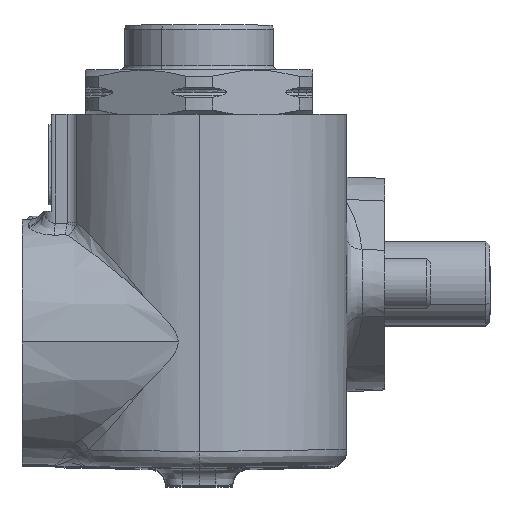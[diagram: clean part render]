
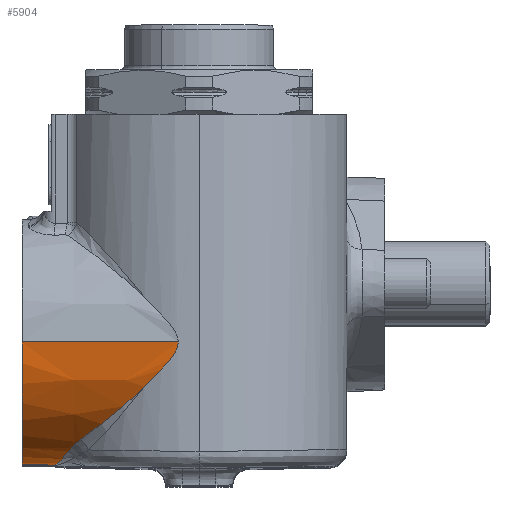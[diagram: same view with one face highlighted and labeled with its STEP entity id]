
A CAD part, top view. The second image highlights one B-rep face of the part: STEP entity #5904.
In plain terms, the highlighted conical face has half-angle 1 degrees and reference radius 14.5 mm.
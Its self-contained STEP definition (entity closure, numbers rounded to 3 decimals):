
#699 = CARTESIAN_POINT ( 'NONE',  ( -8.055, -18.576, 65.432 ) ) ;
#847 = CARTESIAN_POINT ( 'NONE',  ( -0.474, -12.326, 70.259 ) ) ;
#1020 = B_SPLINE_CURVE_WITH_KNOTS ( 'NONE', 3,
 ( #12527, #26080, #12668, #1405, #14603, #15177 ),
 .UNSPECIFIED., .F., .F.,
 ( 4, 2, 4 ),
 ( 0., 0.002, 0.003 ),
 .UNSPECIFIED. ) ;
#1257 = ORIENTED_EDGE ( 'NONE', *, *, #18440, .T. ) ;
#1405 = CARTESIAN_POINT ( 'NONE',  ( -8.672, -19.06, 64.76 ) ) ;
#1425 = FACE_OUTER_BOUND ( 'NONE', #27472, .T. ) ;
#2010 = CARTESIAN_POINT ( 'NONE',  ( -11.103, -21.568, 57.088 ) ) ;
#2461 = CARTESIAN_POINT ( 'NONE',  ( -9.704, -20.245, 62.651 ) ) ;
#2825 = AXIS2_PLACEMENT_3D ( 'NONE', #24018, #28433, #5876 ) ;
#2916 = CARTESIAN_POINT ( 'NONE',  ( -8.055, -18.576, 65.432 ) ) ;
#3056 = CARTESIAN_POINT ( 'NONE',  ( 2.228, -9.501, 71.09 ) ) ;
#3122 = DIRECTION ( 'NONE',  ( -1., 0.017, 0. ) ) ;
#3947 = CARTESIAN_POINT ( 'NONE',  ( 1.093, -10.752, 70.803 ) ) ;
#4099 = CARTESIAN_POINT ( 'NONE',  ( -0.474, -12.326, 70.259 ) ) ;
#4383 = DIRECTION ( 'NONE',  ( 1., 0., 0.017 ) ) ;
#5068 = LINE ( 'NONE', #14245, #12451 ) ;
#5876 = DIRECTION ( 'NONE',  ( 0., 0., 1. ) ) ;
#5904 = ADVANCED_FACE ( 'NONE', ( #1425 ), #18899, .T. ) ;
#6767 = EDGE_CURVE ( 'NONE', #18342, #11330, #7171, .T. ) ;
#7171 = B_SPLINE_CURVE_WITH_KNOTS ( 'NONE', 3,
 ( #8060, #28294, #21698, #19483, #17265, #14325, #23324, #3056, #21148, #29012, #3947, #29162, #10897, #4099 ),
 .UNSPECIFIED., .F., .F.,
 ( 4, 2, 2, 2, 2, 2, 4 ),
 ( 0.023, 0.024, 0.025, 0.026, 0.026, 0.028, 0.03 ),
 .UNSPECIFIED. ) ;
#7458 = VERTEX_POINT ( 'NONE', #11126 ) ;
#7792 = CARTESIAN_POINT ( 'NONE',  ( -7.469, -18.149, 66.002 ) ) ;
#8060 = CARTESIAN_POINT ( 'NONE',  ( 3.519, -7., 71.323 ) ) ;
#8260 = VERTEX_POINT ( 'NONE', #25598 ) ;
#8820 = CARTESIAN_POINT ( 'NONE',  ( -10.236, -20.861, 61.068 ) ) ;
#8924 = VERTEX_POINT ( 'NONE', #22013 ) ;
#8976 = ORIENTED_EDGE ( 'NONE', *, *, #17220, .F. ) ;
#9300 = CARTESIAN_POINT ( 'NONE',  ( -15., -7., 71. ) ) ;
#9322 = DIRECTION ( 'NONE',  ( 1., 0., 0. ) ) ;
#9407 = CARTESIAN_POINT ( 'NONE',  ( -10.396, -21.028, 60.517 ) ) ;
#10586 = LINE ( 'NONE', #20210, #22735 ) ;
#10897 = CARTESIAN_POINT ( 'NONE',  ( -0.08, -11.94, 70.415 ) ) ;
#11126 = CARTESIAN_POINT ( 'NONE',  ( -11.198, -21.566, 56.5 ) ) ;
#11168 = VERTEX_POINT ( 'NONE', #2916 ) ;
#11330 = VERTEX_POINT ( 'NONE', #14401 ) ;
#12093 = ORIENTED_EDGE ( 'NONE', *, *, #6767, .F. ) ;
#12121 = CARTESIAN_POINT ( 'NONE',  ( -3.048, -14.656, 69.076 ) ) ;
#12274 = CARTESIAN_POINT ( 'NONE',  ( -3.695, -15.195, 68.718 ) ) ;
#12451 = VECTOR ( 'NONE', #3122, 1000. ) ;
#12527 = CARTESIAN_POINT ( 'NONE',  ( -9.52, -19.989, 63.157 ) ) ;
#12668 = CARTESIAN_POINT ( 'NONE',  ( -9.159, -19.535, 64.002 ) ) ;
#14245 = CARTESIAN_POINT ( 'NONE',  ( -17., -21.465, 56.5 ) ) ;
#14325 = CARTESIAN_POINT ( 'NONE',  ( 2.76, -8.831, 71.198 ) ) ;
#14401 = CARTESIAN_POINT ( 'NONE',  ( -0.474, -12.326, 70.259 ) ) ;
#14603 = CARTESIAN_POINT ( 'NONE',  ( -8.383, -18.815, 65.113 ) ) ;
#14985 = ORIENTED_EDGE ( 'NONE', *, *, #17486, .T. ) ;
#15177 = CARTESIAN_POINT ( 'NONE',  ( -8.055, -18.576, 65.432 ) ) ;
#15266 = AXIS2_PLACEMENT_3D ( 'NONE', #27030, #9322, #18365 ) ;
#16688 = CARTESIAN_POINT ( 'NONE',  ( -5.619, -16.739, 67.483 ) ) ;
#16830 = CARTESIAN_POINT ( 'NONE',  ( -1.754, -13.532, 69.72 ) ) ;
#17220 = EDGE_CURVE ( 'NONE', #7458, #8924, #5068, .T. ) ;
#17265 = CARTESIAN_POINT ( 'NONE',  ( 3.08, -8.355, 71.255 ) ) ;
#17486 = EDGE_CURVE ( 'NONE', #7458, #8260, #23974, .T. ) ;
#18342 = VERTEX_POINT ( 'NONE', #18663 ) ;
#18365 = DIRECTION ( 'NONE',  ( 0., 0., -1. ) ) ;
#18440 = EDGE_CURVE ( 'NONE', #24115, #8924, #19539, .T. ) ;
#18663 = CARTESIAN_POINT ( 'NONE',  ( 3.519, -7., 71.323 ) ) ;
#18860 = EDGE_CURVE ( 'NONE', #11168, #11330, #19727, .T. ) ;
#18899 = CONICAL_SURFACE ( 'NONE', #2825, 14.5, 0.017 ) ;
#19180 = ORIENTED_EDGE ( 'NONE', *, *, #27086, .F. ) ;
#19204 = CARTESIAN_POINT ( 'NONE',  ( -6.863, -17.695, 66.523 ) ) ;
#19483 = CARTESIAN_POINT ( 'NONE',  ( 3.225, -8.108, 71.279 ) ) ;
#19539 = CIRCLE ( 'NONE', #15266, 14.5 ) ;
#19727 = B_SPLINE_CURVE_WITH_KNOTS ( 'NONE', 3,
 ( #699, #7792, #19204, #16688, #23332, #12274, #12121, #16830, #21154, #847 ),
 .UNSPECIFIED., .F., .F.,
 ( 4, 2, 2, 2, 4 ),
 ( 0., 0.003, 0.006, 0.008, 0.011 ),
 .UNSPECIFIED. ) ;
#20210 = CARTESIAN_POINT ( 'NONE',  ( -15., -7., 71. ) ) ;
#20241 = ORIENTED_EDGE ( 'NONE', *, *, #18860, .T. ) ;
#20245 = CARTESIAN_POINT ( 'NONE',  ( -10.798, -21.398, 58.826 ) ) ;
#20400 = CARTESIAN_POINT ( 'NONE',  ( -11.198, -21.566, 56.5 ) ) ;
#21148 = CARTESIAN_POINT ( 'NONE',  ( 2.043, -9.715, 71.048 ) ) ;
#21154 = CARTESIAN_POINT ( 'NONE',  ( -1.107, -12.947, 70.006 ) ) ;
#21698 = CARTESIAN_POINT ( 'NONE',  ( 3.448, -7.576, 71.313 ) ) ;
#22013 = CARTESIAN_POINT ( 'NONE',  ( -15., -21.5, 56.5 ) ) ;
#22728 = CARTESIAN_POINT ( 'NONE',  ( -11.01, -21.534, 57.672 ) ) ;
#22735 = VECTOR ( 'NONE', #4383, 1000. ) ;
#23324 = CARTESIAN_POINT ( 'NONE',  ( 2.586, -9.06, 71.165 ) ) ;
#23332 = CARTESIAN_POINT ( 'NONE',  ( -4.98, -16.236, 67.923 ) ) ;
#23974 = B_SPLINE_CURVE_WITH_KNOTS ( 'NONE', 3,
 ( #20400, #2010, #22728, #20245, #26666, #9407, #8820, #26964, #2461, #24619 ),
 .UNSPECIFIED., .F., .F.,
 ( 4, 2, 2, 2, 4 ),
 ( 0., 0.002, 0.004, 0.005, 0.007 ),
 .UNSPECIFIED. ) ;
#24018 = CARTESIAN_POINT ( 'NONE',  ( -15., -7., 56.5 ) ) ;
#24115 = VERTEX_POINT ( 'NONE', #9300 ) ;
#24619 = CARTESIAN_POINT ( 'NONE',  ( -9.52, -19.989, 63.157 ) ) ;
#25598 = CARTESIAN_POINT ( 'NONE',  ( -9.52, -19.989, 63.157 ) ) ;
#26080 = CARTESIAN_POINT ( 'NONE',  ( -9.36, -19.768, 63.595 ) ) ;
#26666 = CARTESIAN_POINT ( 'NONE',  ( -10.678, -21.297, 59.395 ) ) ;
#26964 = CARTESIAN_POINT ( 'NONE',  ( -9.89, -20.47, 62.134 ) ) ;
#27030 = CARTESIAN_POINT ( 'NONE',  ( -15., -7., 56.5 ) ) ;
#27086 = EDGE_CURVE ( 'NONE', #24115, #18342, #10586, .T. ) ;
#27472 = EDGE_LOOP ( 'NONE', ( #19180, #1257, #8976, #14985, #27848, #20241, #12093 ) ) ;
#27848 = ORIENTED_EDGE ( 'NONE', *, *, #28603, .T. ) ;
#28294 = CARTESIAN_POINT ( 'NONE',  ( 3.519, -7.29, 71.323 ) ) ;
#28433 = DIRECTION ( 'NONE',  ( 1., 0., 0. ) ) ;
#28603 = EDGE_CURVE ( 'NONE', #8260, #11168, #1020, .T. ) ;
#29012 = CARTESIAN_POINT ( 'NONE',  ( 1.48, -10.346, 70.91 ) ) ;
#29162 = CARTESIAN_POINT ( 'NONE',  ( 0.313, -11.549, 70.555 ) ) ;
